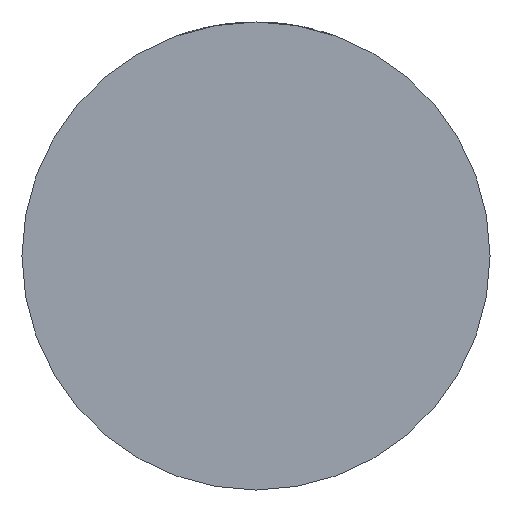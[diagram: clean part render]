
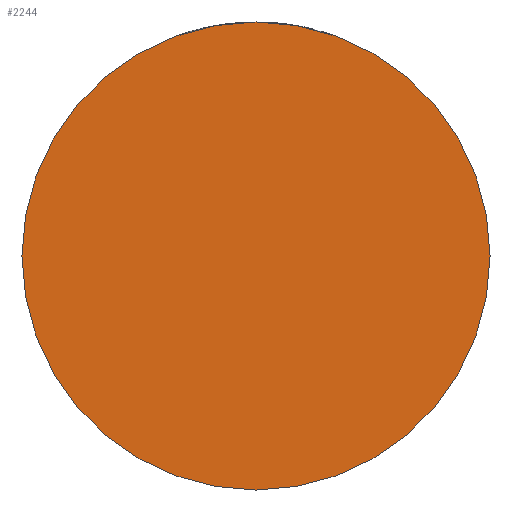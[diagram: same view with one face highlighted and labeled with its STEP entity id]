
A CAD part, front view. The second image highlights one B-rep face of the part: STEP entity #2244.
In plain terms, the highlighted planar face has unit normal (0, -1, 0).
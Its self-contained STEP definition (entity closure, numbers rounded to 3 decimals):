
#243 = PLANE ( 'NONE',  #1680 ) ;
#273 = CARTESIAN_POINT ( 'NONE',  ( 0., -25., 0. ) ) ;
#282 = CARTESIAN_POINT ( 'NONE',  ( -29.5, -25., 0. ) ) ;
#304 = DIRECTION ( 'NONE',  ( 1., 0., 0. ) ) ;
#309 = VERTEX_POINT ( 'NONE', #1786 ) ;
#521 = EDGE_CURVE ( 'NONE', #309, #724, #1249, .T. ) ;
#541 = AXIS2_PLACEMENT_3D ( 'NONE', #3659, #3348, #304 ) ;
#554 = DIRECTION ( 'NONE',  ( 0., -1., 0. ) ) ;
#724 = VERTEX_POINT ( 'NONE', #282 ) ;
#740 = EDGE_LOOP ( 'NONE', ( #2102, #3634 ) ) ;
#934 = FACE_OUTER_BOUND ( 'NONE', #740, .T. ) ;
#1249 = CIRCLE ( 'NONE', #3093, 29.5 ) ;
#1530 = DIRECTION ( 'NONE',  ( 1., 0., 0. ) ) ;
#1680 = AXIS2_PLACEMENT_3D ( 'NONE', #273, #554, #1530 ) ;
#1786 = CARTESIAN_POINT ( 'NONE',  ( 29.5, -25., 0. ) ) ;
#2102 = ORIENTED_EDGE ( 'NONE', *, *, #2822, .T. ) ;
#2244 = ADVANCED_FACE ( 'NONE', ( #934 ), #243, .T. ) ;
#2630 = DIRECTION ( 'NONE',  ( 0., -1., 0. ) ) ;
#2822 = EDGE_CURVE ( 'NONE', #724, #309, #4094, .T. ) ;
#3093 = AXIS2_PLACEMENT_3D ( 'NONE', #3928, #2630, #3600 ) ;
#3348 = DIRECTION ( 'NONE',  ( 0., -1., 0. ) ) ;
#3600 = DIRECTION ( 'NONE',  ( 1., 0., 0. ) ) ;
#3634 = ORIENTED_EDGE ( 'NONE', *, *, #521, .T. ) ;
#3659 = CARTESIAN_POINT ( 'NONE',  ( 0., -25., 0. ) ) ;
#3928 = CARTESIAN_POINT ( 'NONE',  ( 0., -25., 0. ) ) ;
#4094 = CIRCLE ( 'NONE', #541, 29.5 ) ;
